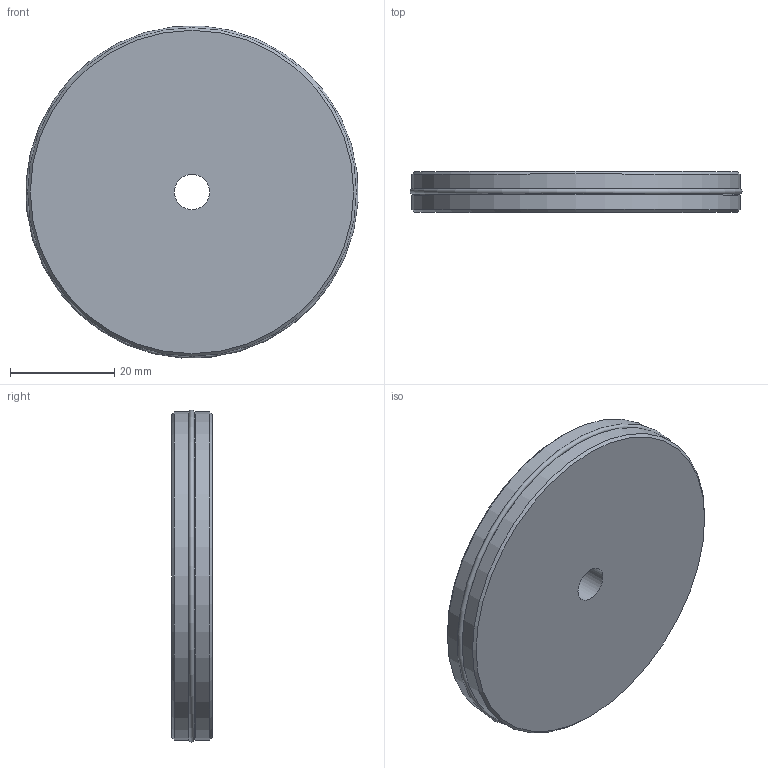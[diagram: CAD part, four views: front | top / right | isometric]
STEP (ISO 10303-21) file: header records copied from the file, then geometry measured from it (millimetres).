
FILE_DESCRIPTION(/* description */ (''),/* implementation_level */ '2;1');
FILE_NAME(/* name */ '\\dc01\daten\CAD\Standard\Daten\3D-Datenbank\ZS\step-Daten\G-ZS125-1.stp',/* time_stamp */ '2019-03-22T09:32:52+01:00',/* author */ ('ysplieth'),/* organization */ (''),/* preprocessor_version */ 'ST-DEVELOPER v17',/* originating_system */ 'Autodesk Inventor 2018',/* authorisation */ '');
FILE_SCHEMA (('AUTOMOTIVE_DESIGN { 1 0 10303 214 3 1 1 }'));
Length unit declared in the file: millimetre
Products named in the file (1): Bauteil1
Bounding box: 63.68 x 7.8 x 63.68 mm (x, y, z)
Volume: 24000 mm3; surface area: 8606 mm2
Topology: 2 solids, 2 shells, 11 faces, 25 edges, 18 vertices
Faces by surface type: cylinder 4, plane 4, cone 2, torus 1
Full cylindrical faces by diameter (mm): 6.75 x1, 61.8 x1, 63 x2
Entity records: 393 total; most frequent: DIRECTION 68, CARTESIAN_POINT 55, ORIENTED_EDGE 50, AXIS2_PLACEMENT_3D 31, EDGE_CURVE 25, CIRCLE 19, VERTEX_POINT 18, EDGE_LOOP 15
